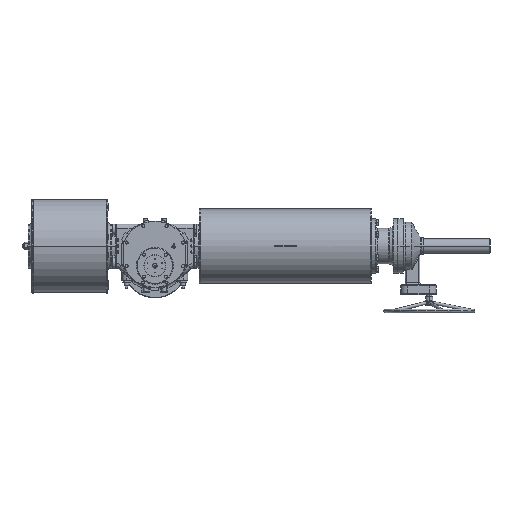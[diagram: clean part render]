
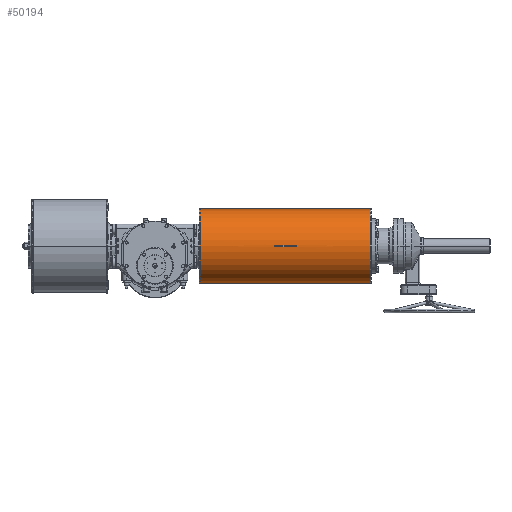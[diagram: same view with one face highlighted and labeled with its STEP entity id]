
A CAD part, top view. The second image highlights one B-rep face of the part: STEP entity #50194.
In plain terms, the highlighted cylindrical face has radius 203.2 mm (diameter 406.4 mm), a partial arc.
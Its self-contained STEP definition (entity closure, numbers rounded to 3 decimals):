
#2542 = CYLINDRICAL_SURFACE ( 'NONE', #14816, 203.2 ) ;
#2625 = VECTOR ( 'NONE', #69719, 1000. ) ;
#3324 = DIRECTION ( 'NONE',  ( 1., 0., 0. ) ) ;
#5861 = ORIENTED_EDGE ( 'NONE', *, *, #27896, .F. ) ;
#6063 = CARTESIAN_POINT ( 'NONE',  ( 1176.5, -95.2, 82.5 ) ) ;
#8283 = EDGE_LOOP ( 'NONE', ( #49186, #38855, #14151, #21043, #75332, #57584 ) ) ;
#8491 = DIRECTION ( 'NONE',  ( -1., 0., 0. ) ) ;
#8870 = CARTESIAN_POINT ( 'NONE',  ( 654., 108., 82.5 ) ) ;
#8893 = CARTESIAN_POINT ( 'NONE',  ( 774., 103., 285.638 ) ) ;
#9105 = VERTEX_POINT ( 'NONE', #67883 ) ;
#9814 = DIRECTION ( 'NONE',  ( 0., -1., 0. ) ) ;
#9822 = DIRECTION ( 'NONE',  ( 0., -1., 0. ) ) ;
#10261 = DIRECTION ( 'NONE',  ( -1., 0., 0. ) ) ;
#11154 = DIRECTION ( 'NONE',  ( -1., 0., 0. ) ) ;
#13571 = EDGE_CURVE ( 'NONE', #35732, #43791, #28152, .T. ) ;
#14151 = ORIENTED_EDGE ( 'NONE', *, *, #13571, .T. ) ;
#14816 = AXIS2_PLACEMENT_3D ( 'NONE', #59800, #17314, #73174 ) ;
#14831 = EDGE_LOOP ( 'NONE', ( #50053, #63968, #54429, #34434, #5861 ) ) ;
#16252 = EDGE_CURVE ( 'NONE', #84287, #88064, #89283, .T. ) ;
#16737 = CARTESIAN_POINT ( 'NONE',  ( 1179.7, 108., 82.5 ) ) ;
#17112 = CARTESIAN_POINT ( 'NONE',  ( 774., 108., 285.7 ) ) ;
#17147 = CARTESIAN_POINT ( 'NONE',  ( 654., 113., 285.638 ) ) ;
#17314 = DIRECTION ( 'NONE',  ( -1., 0., 0. ) ) ;
#19956 = VERTEX_POINT ( 'NONE', #74525 ) ;
#20834 = LINE ( 'NONE', #6063, #85759 ) ;
#21043 = ORIENTED_EDGE ( 'NONE', *, *, #45269, .F. ) ;
#21337 = AXIS2_PLACEMENT_3D ( 'NONE', #16737, #10261, #9814 ) ;
#21443 = LINE ( 'NONE', #35282, #64745 ) ;
#21489 = DIRECTION ( 'NONE',  ( 1., 0., 0. ) ) ;
#23248 = DIRECTION ( 'NONE',  ( 0., 0., -1. ) ) ;
#27855 = DIRECTION ( 'NONE',  ( 0., -1., 0. ) ) ;
#27896 = EDGE_CURVE ( 'NONE', #35017, #9105, #20834, .T. ) ;
#28152 = CIRCLE ( 'NONE', #88555, 203.2 ) ;
#28412 = CARTESIAN_POINT ( 'NONE',  ( 774., 108., 82.5 ) ) ;
#28455 = VERTEX_POINT ( 'NONE', #71015 ) ;
#28698 = CIRCLE ( 'NONE', #71420, 203.2 ) ;
#28856 = DIRECTION ( 'NONE',  ( 0., 0., 1. ) ) ;
#28982 = EDGE_CURVE ( 'NONE', #19956, #9105, #28698, .T. ) ;
#29243 = EDGE_CURVE ( 'NONE', #35017, #45373, #49367, .T. ) ;
#30191 = CARTESIAN_POINT ( 'NONE',  ( 654., 108., 82.5 ) ) ;
#32063 = FACE_OUTER_BOUND ( 'NONE', #14831, .T. ) ;
#34434 = ORIENTED_EDGE ( 'NONE', *, *, #28982, .T. ) ;
#34618 = CARTESIAN_POINT ( 'NONE',  ( 1176.5, 311.2, 82.5 ) ) ;
#35017 = VERTEX_POINT ( 'NONE', #35461 ) ;
#35282 = CARTESIAN_POINT ( 'NONE',  ( 1176.5, 103., 285.638 ) ) ;
#35461 = CARTESIAN_POINT ( 'NONE',  ( 1179.7, -95.2, 82.5 ) ) ;
#35732 = VERTEX_POINT ( 'NONE', #76809 ) ;
#37418 = AXIS2_PLACEMENT_3D ( 'NONE', #8870, #58723, #73458 ) ;
#38855 = ORIENTED_EDGE ( 'NONE', *, *, #54636, .T. ) ;
#41173 = AXIS2_PLACEMENT_3D ( 'NONE', #58320, #3324, #9822 ) ;
#41599 = CARTESIAN_POINT ( 'NONE',  ( 1179.7, 311.2, 82.5 ) ) ;
#43791 = VERTEX_POINT ( 'NONE', #17147 ) ;
#44143 = CIRCLE ( 'NONE', #41173, 203.2 ) ;
#45269 = EDGE_CURVE ( 'NONE', #28455, #43791, #46243, .T. ) ;
#45373 = VERTEX_POINT ( 'NONE', #41599 ) ;
#46243 = LINE ( 'NONE', #74378, #61792 ) ;
#47114 = DIRECTION ( 'NONE',  ( 0., 0., 1. ) ) ;
#49186 = ORIENTED_EDGE ( 'NONE', *, *, #90292, .T. ) ;
#49367 = CIRCLE ( 'NONE', #21337, 203.2 ) ;
#50053 = ORIENTED_EDGE ( 'NONE', *, *, #29243, .T. ) ;
#50194 = ADVANCED_FACE ( 'NONE', ( #74534, #32063 ), #2542, .T. ) ;
#54429 = ORIENTED_EDGE ( 'NONE', *, *, #85764, .T. ) ;
#54636 = EDGE_CURVE ( 'NONE', #89040, #35732, #55131, .T. ) ;
#54736 = VERTEX_POINT ( 'NONE', #73004 ) ;
#55131 = CIRCLE ( 'NONE', #37418, 203.2 ) ;
#57584 = ORIENTED_EDGE ( 'NONE', *, *, #16252, .T. ) ;
#58320 = CARTESIAN_POINT ( 'NONE',  ( 248.3, 108., 82.5 ) ) ;
#58723 = DIRECTION ( 'NONE',  ( -1., 0., 0. ) ) ;
#59152 = CARTESIAN_POINT ( 'NONE',  ( 774., 108., 82.5 ) ) ;
#59800 = CARTESIAN_POINT ( 'NONE',  ( 1176.5, 108., 82.5 ) ) ;
#61792 = VECTOR ( 'NONE', #11154, 1000. ) ;
#62983 = CARTESIAN_POINT ( 'NONE',  ( 248.3, 108., 82.5 ) ) ;
#63268 = CARTESIAN_POINT ( 'NONE',  ( 654., 103., 285.638 ) ) ;
#63968 = ORIENTED_EDGE ( 'NONE', *, *, #77665, .T. ) ;
#64745 = VECTOR ( 'NONE', #8491, 1000. ) ;
#67883 = CARTESIAN_POINT ( 'NONE',  ( 248.3, -95.2, 82.5 ) ) ;
#69719 = DIRECTION ( 'NONE',  ( -1., 0., 0. ) ) ;
#71015 = CARTESIAN_POINT ( 'NONE',  ( 774., 113., 285.638 ) ) ;
#71420 = AXIS2_PLACEMENT_3D ( 'NONE', #62983, #91081, #27855 ) ;
#73004 = CARTESIAN_POINT ( 'NONE',  ( 248.3, 311.2, 82.5 ) ) ;
#73146 = AXIS2_PLACEMENT_3D ( 'NONE', #59152, #87268, #47114 ) ;
#73174 = DIRECTION ( 'NONE',  ( 0., -1., 0. ) ) ;
#73458 = DIRECTION ( 'NONE',  ( 0., 0., -1. ) ) ;
#73847 = AXIS2_PLACEMENT_3D ( 'NONE', #28412, #21489, #28856 ) ;
#74378 = CARTESIAN_POINT ( 'NONE',  ( 1176.5, 113., 285.638 ) ) ;
#74525 = CARTESIAN_POINT ( 'NONE',  ( 248.3, 108., 285.7 ) ) ;
#74534 = FACE_BOUND ( 'NONE', #8283, .T. ) ;
#75332 = ORIENTED_EDGE ( 'NONE', *, *, #87678, .T. ) ;
#76682 = DIRECTION ( 'NONE',  ( -1., 0., 0. ) ) ;
#76809 = CARTESIAN_POINT ( 'NONE',  ( 654., 108., 285.7 ) ) ;
#77665 = EDGE_CURVE ( 'NONE', #45373, #54736, #90923, .T. ) ;
#82689 = CIRCLE ( 'NONE', #73847, 203.2 ) ;
#84287 = VERTEX_POINT ( 'NONE', #17112 ) ;
#85759 = VECTOR ( 'NONE', #76682, 1000. ) ;
#85764 = EDGE_CURVE ( 'NONE', #54736, #19956, #44143, .T. ) ;
#86947 = DIRECTION ( 'NONE',  ( -1., 0., 0. ) ) ;
#87268 = DIRECTION ( 'NONE',  ( 1., 0., 0. ) ) ;
#87678 = EDGE_CURVE ( 'NONE', #28455, #84287, #82689, .T. ) ;
#88064 = VERTEX_POINT ( 'NONE', #8893 ) ;
#88555 = AXIS2_PLACEMENT_3D ( 'NONE', #30191, #86947, #23248 ) ;
#89040 = VERTEX_POINT ( 'NONE', #63268 ) ;
#89283 = CIRCLE ( 'NONE', #73146, 203.2 ) ;
#90292 = EDGE_CURVE ( 'NONE', #88064, #89040, #21443, .T. ) ;
#90923 = LINE ( 'NONE', #34618, #2625 ) ;
#91081 = DIRECTION ( 'NONE',  ( 1., 0., 0. ) ) ;
